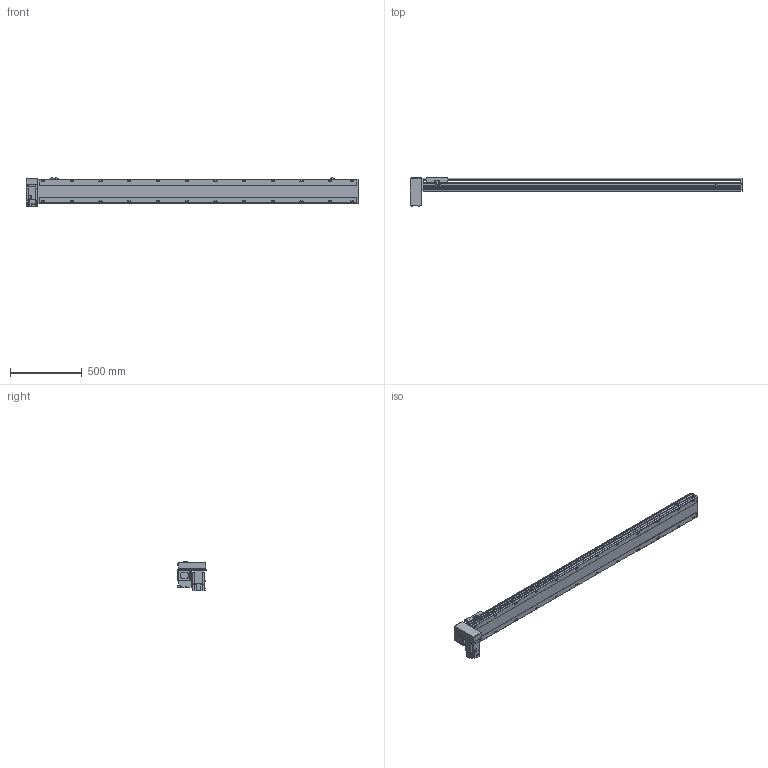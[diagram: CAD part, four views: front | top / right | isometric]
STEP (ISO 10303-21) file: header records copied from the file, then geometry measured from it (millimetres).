
FILE_DESCRIPTION( ( 'STEP AP214' ), '1' );
FILE_NAME( 'x:/temp/worker_5/temp/exporttempdir_3988_39_X1ckb/format_0/PBS170-P40-S1950-RD-T75-C1-N(0).stp', '2022-06-08T05:36:57', ( 'License CC BY-ND 4.0' ), ( 'CADENAS' ), ' ', 'PARTsolutions', ' ' );
FILE_SCHEMA( ( 'AUTOMOTIVE_DESIGN { 1 0 10303 214 1 1 1 1 }' ) );
Length unit declared in the file: millimetre
Products named in the file (7): PBS170-P40-S1950-RD-T75-C1-N(0); _PBS170-S1950()_body; _PBS170T-RD_motors; _T75-p1; _PBS170_sliser; _PBS170_plant; _PBS170_sensor
Assembly tree (8 placements, depth 2):
  PBS170-P40-S1950-RD-T75-C1-N(0)
    _PBS170-S1950()_body
    _PBS170T-RD_motors
    _T75-p1
    _PBS170_sliser
    _PBS170_plant
    _PBS170_sensor  x3
Bounding box: 2313 x 201 x 205.3 mm (x, y, z)
Volume: 17760039.4 mm3; surface area: 2256627.2 mm2
Topology: 8 solids, 8 shells, 1146 faces, 3035 edges, 1978 vertices
Faces by surface type: plane 711, cylinder 371, cone 54, sphere 8, torus 2
Full cylindrical faces by diameter (mm): 3.242 x4, 4 x2, 4.4 x4, 4.5 x6, 4.917 x4, 6 x9, 6.647 x32, 7 x2, 7.5 x4, 8 x8, 8.5 x24, 10 x4, 10.5 x24, 11 x2, 30 x2, 40 x1, 70 x1
Entity records: 42308 total; most frequent: CARTESIAN_POINT 6893, DIRECTION 5580, ORIENTED_EDGE 5268, EDGE_CURVE 2634, AXIS2_PLACEMENT_3D 1957, VERTEX_POINT 1826, LINE 1666, VECTOR 1666
